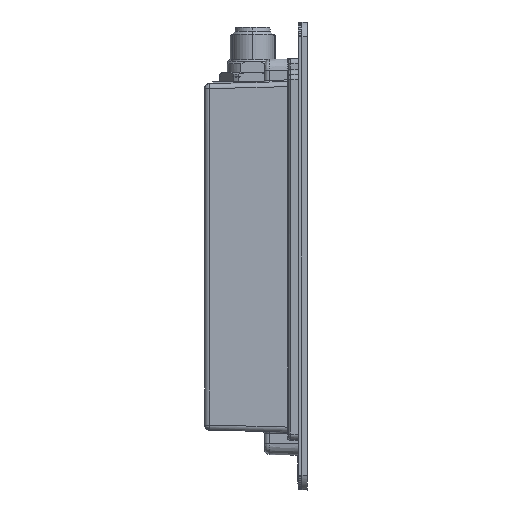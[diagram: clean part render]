
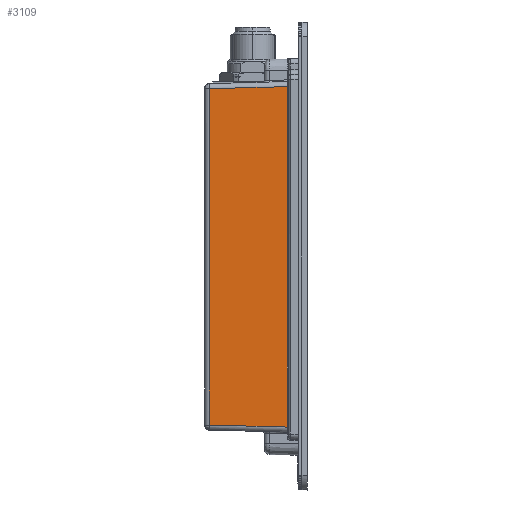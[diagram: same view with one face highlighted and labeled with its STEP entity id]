
A CAD part, left-side view. The second image highlights one B-rep face of the part: STEP entity #3109.
In plain terms, the highlighted planar face has unit normal (-1, 0.026, 0).
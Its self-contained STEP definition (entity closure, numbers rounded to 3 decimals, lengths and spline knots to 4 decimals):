
#2181 = LINE ( 'NONE', #30380, #4045 ) ;
#3109 = ADVANCED_FACE ( 'NONE', ( #32145 ), #25846, .T. ) ;
#3209 = CARTESIAN_POINT ( 'NONE',  ( -2.8456, 1.0399, -1.9668 ) ) ;
#4045 = VECTOR ( 'NONE', #18753, 39.3701 ) ;
#5228 = VERTEX_POINT ( 'NONE', #17841 ) ;
#5650 = CARTESIAN_POINT ( 'NONE',  ( -2.8694, 0.1292, 0.5971 ) ) ;
#8035 = ORIENTED_EDGE ( 'NONE', *, *, #25125, .F. ) ;
#8566 = VERTEX_POINT ( 'NONE', #15176 ) ;
#9851 = EDGE_CURVE ( 'NONE', #5228, #29746, #13063, .T. ) ;
#10030 = CARTESIAN_POINT ( 'NONE',  ( -2.8451, 1.0399, 1.9668 ) ) ;
#10522 = AXIS2_PLACEMENT_3D ( 'NONE', #31783, #27833, #17047 ) ;
#11433 = DIRECTION ( 'NONE',  ( 0., 0., 1. ) ) ;
#12122 = LINE ( 'NONE', #3209, #34331 ) ;
#13063 = LINE ( 'NONE', #5650, #23193 ) ;
#14156 = ORIENTED_EDGE ( 'NONE', *, *, #18148, .T. ) ;
#15176 = CARTESIAN_POINT ( 'NONE',  ( -2.8455, 1.0399, -1.9668 ) ) ;
#16401 = VECTOR ( 'NONE', #17053, 39.3701 ) ;
#17047 = DIRECTION ( 'NONE',  ( 0.026, 1., 0. ) ) ;
#17053 = DIRECTION ( 'NONE',  ( 0.026, 0.999, -0.026 ) ) ;
#17841 = CARTESIAN_POINT ( 'NONE',  ( -2.8694, 0.1292, -1.9906 ) ) ;
#18095 = CARTESIAN_POINT ( 'NONE',  ( -2.8694, 0.1292, 1.9906 ) ) ;
#18148 = EDGE_CURVE ( 'NONE', #29746, #36392, #18242, .T. ) ;
#18242 = LINE ( 'NONE', #35173, #16401 ) ;
#18381 = ORIENTED_EDGE ( 'NONE', *, *, #36154, .T. ) ;
#18753 = DIRECTION ( 'NONE',  ( 0., 0., 1. ) ) ;
#19171 = ORIENTED_EDGE ( 'NONE', *, *, #9851, .T. ) ;
#21005 = EDGE_LOOP ( 'NONE', ( #8035, #18381, #19171, #14156 ) ) ;
#23193 = VECTOR ( 'NONE', #11433, 39.3701 ) ;
#25125 = EDGE_CURVE ( 'NONE', #8566, #36392, #2181, .T. ) ;
#25846 = PLANE ( 'NONE',  #10522 ) ;
#27833 = DIRECTION ( 'NONE',  ( -1., 0.026, 0. ) ) ;
#29746 = VERTEX_POINT ( 'NONE', #18095 ) ;
#30380 = CARTESIAN_POINT ( 'NONE',  ( -2.8456, 1.0399, 0.2986 ) ) ;
#31783 = CARTESIAN_POINT ( 'NONE',  ( -2.8699, 0.11, 0.5971 ) ) ;
#32145 = FACE_OUTER_BOUND ( 'NONE', #21005, .T. ) ;
#32503 = DIRECTION ( 'NONE',  ( -0.026, -0.999, -0.026 ) ) ;
#34331 = VECTOR ( 'NONE', #32503, 39.3701 ) ;
#35173 = CARTESIAN_POINT ( 'NONE',  ( -2.8694, 0.1292, 1.9906 ) ) ;
#36154 = EDGE_CURVE ( 'NONE', #8566, #5228, #12122, .T. ) ;
#36392 = VERTEX_POINT ( 'NONE', #10030 ) ;
